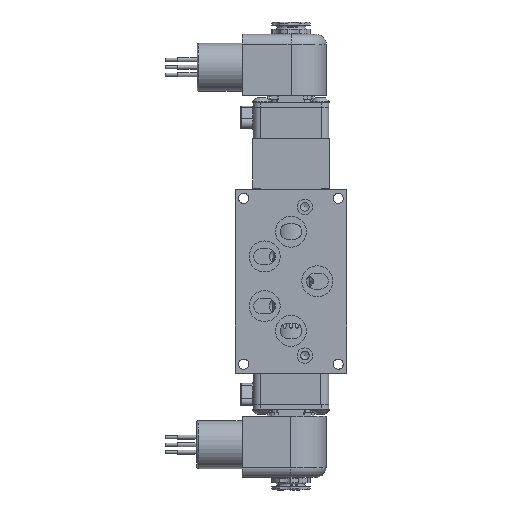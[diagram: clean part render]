
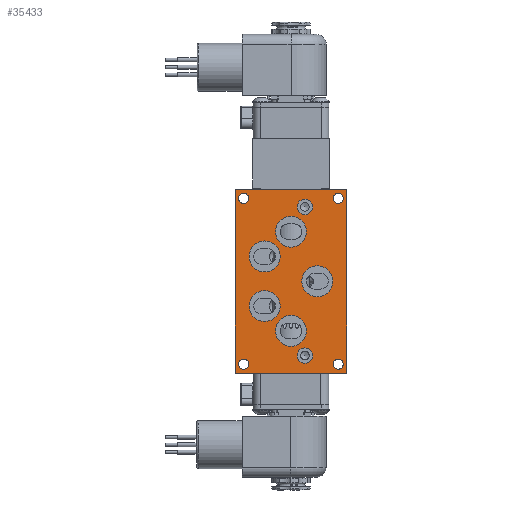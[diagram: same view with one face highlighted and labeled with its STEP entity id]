
A CAD part, front view. The second image highlights one B-rep face of the part: STEP entity #35433.
In plain terms, the highlighted planar face has unit normal (0, -1, 0).
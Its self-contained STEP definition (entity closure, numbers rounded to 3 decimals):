
#1205=FACE_BOUND('',#5490,.T.);
#1206=FACE_BOUND('',#5491,.T.);
#1207=FACE_BOUND('',#5492,.T.);
#1208=FACE_BOUND('',#5493,.T.);
#1209=FACE_BOUND('',#5494,.T.);
#1210=FACE_BOUND('',#5495,.T.);
#1211=FACE_BOUND('',#5496,.T.);
#1212=FACE_BOUND('',#5497,.T.);
#1213=FACE_BOUND('',#5498,.T.);
#1214=FACE_BOUND('',#5499,.T.);
#1215=FACE_BOUND('',#5500,.T.);
#1855=PLANE('',#38562);
#3317=FACE_OUTER_BOUND('',#5489,.T.);
#5489=EDGE_LOOP('',(#27011,#27012,#27013,#27014));
#5490=EDGE_LOOP('',(#27015));
#5491=EDGE_LOOP('',(#27016));
#5492=EDGE_LOOP('',(#27017));
#5493=EDGE_LOOP('',(#27018));
#5494=EDGE_LOOP('',(#27019));
#5495=EDGE_LOOP('',(#27020));
#5496=EDGE_LOOP('',(#27021));
#5497=EDGE_LOOP('',(#27022));
#5498=EDGE_LOOP('',(#27023));
#5499=EDGE_LOOP('',(#27024));
#5500=EDGE_LOOP('',(#27025));
#7732=CIRCLE('',#38563,0.396);
#7733=CIRCLE('',#38564,0.396);
#7734=CIRCLE('',#38565,0.794);
#7735=CIRCLE('',#38566,0.794);
#7736=CIRCLE('',#38567,0.794);
#7737=CIRCLE('',#38568,0.794);
#7738=CIRCLE('',#38569,0.794);
#7739=CIRCLE('',#38570,0.258);
#7740=CIRCLE('',#38571,0.258);
#7741=CIRCLE('',#38572,0.258);
#7742=CIRCLE('',#38573,0.258);
#10181=LINE('',#59419,#12594);
#10182=LINE('',#59421,#12595);
#10183=LINE('',#59423,#12596);
#10184=LINE('',#59424,#12597);
#12594=VECTOR('',#46169,1.);
#12595=VECTOR('',#46170,1.);
#12596=VECTOR('',#46171,1.);
#12597=VECTOR('',#46172,1.);
#15325=VERTEX_POINT('',#59417);
#15326=VERTEX_POINT('',#59418);
#15327=VERTEX_POINT('',#59420);
#15328=VERTEX_POINT('',#59422);
#15329=VERTEX_POINT('',#59425);
#15330=VERTEX_POINT('',#59427);
#15331=VERTEX_POINT('',#59429);
#15332=VERTEX_POINT('',#59431);
#15333=VERTEX_POINT('',#59433);
#15334=VERTEX_POINT('',#59435);
#15335=VERTEX_POINT('',#59437);
#15336=VERTEX_POINT('',#59439);
#15337=VERTEX_POINT('',#59441);
#15338=VERTEX_POINT('',#59443);
#15339=VERTEX_POINT('',#59445);
#19483=EDGE_CURVE('',#15325,#15326,#10181,.T.);
#19484=EDGE_CURVE('',#15326,#15327,#10182,.T.);
#19485=EDGE_CURVE('',#15327,#15328,#10183,.T.);
#19486=EDGE_CURVE('',#15328,#15325,#10184,.T.);
#19487=EDGE_CURVE('',#15329,#15329,#7732,.T.);
#19488=EDGE_CURVE('',#15330,#15330,#7733,.T.);
#19489=EDGE_CURVE('',#15331,#15331,#7734,.T.);
#19490=EDGE_CURVE('',#15332,#15332,#7735,.T.);
#19491=EDGE_CURVE('',#15333,#15333,#7736,.T.);
#19492=EDGE_CURVE('',#15334,#15334,#7737,.T.);
#19493=EDGE_CURVE('',#15335,#15335,#7738,.T.);
#19494=EDGE_CURVE('',#15336,#15336,#7739,.T.);
#19495=EDGE_CURVE('',#15337,#15337,#7740,.T.);
#19496=EDGE_CURVE('',#15338,#15338,#7741,.T.);
#19497=EDGE_CURVE('',#15339,#15339,#7742,.T.);
#27011=ORIENTED_EDGE('',*,*,#19483,.T.);
#27012=ORIENTED_EDGE('',*,*,#19484,.T.);
#27013=ORIENTED_EDGE('',*,*,#19485,.T.);
#27014=ORIENTED_EDGE('',*,*,#19486,.T.);
#27015=ORIENTED_EDGE('',*,*,#19487,.T.);
#27016=ORIENTED_EDGE('',*,*,#19488,.T.);
#27017=ORIENTED_EDGE('',*,*,#19489,.T.);
#27018=ORIENTED_EDGE('',*,*,#19490,.T.);
#27019=ORIENTED_EDGE('',*,*,#19491,.T.);
#27020=ORIENTED_EDGE('',*,*,#19492,.T.);
#27021=ORIENTED_EDGE('',*,*,#19493,.T.);
#27022=ORIENTED_EDGE('',*,*,#19494,.T.);
#27023=ORIENTED_EDGE('',*,*,#19495,.T.);
#27024=ORIENTED_EDGE('',*,*,#19496,.T.);
#27025=ORIENTED_EDGE('',*,*,#19497,.T.);
#35433=ADVANCED_FACE('',(#3317,#1205,#1206,#1207,#1208,#1209,#1210,#1211,
#1212,#1213,#1214,#1215),#1855,.T.);
#38562=AXIS2_PLACEMENT_3D('',#59416,#46167,#46168);
#38563=AXIS2_PLACEMENT_3D('',#59426,#46173,#46174);
#38564=AXIS2_PLACEMENT_3D('',#59428,#46175,#46176);
#38565=AXIS2_PLACEMENT_3D('',#59430,#46177,#46178);
#38566=AXIS2_PLACEMENT_3D('',#59432,#46179,#46180);
#38567=AXIS2_PLACEMENT_3D('',#59434,#46181,#46182);
#38568=AXIS2_PLACEMENT_3D('',#59436,#46183,#46184);
#38569=AXIS2_PLACEMENT_3D('',#59438,#46185,#46186);
#38570=AXIS2_PLACEMENT_3D('',#59440,#46187,#46188);
#38571=AXIS2_PLACEMENT_3D('',#59442,#46189,#46190);
#38572=AXIS2_PLACEMENT_3D('',#59444,#46191,#46192);
#38573=AXIS2_PLACEMENT_3D('',#59446,#46193,#46194);
#46167=DIRECTION('center_axis',(0.,-1.,0.));
#46168=DIRECTION('ref_axis',(0.,0.,-1.));
#46169=DIRECTION('',(-1.,0.,0.));
#46170=DIRECTION('',(0.,0.,-1.));
#46171=DIRECTION('',(1.,0.,0.));
#46172=DIRECTION('',(0.,0.,1.));
#46173=DIRECTION('center_axis',(0.,1.,0.));
#46174=DIRECTION('ref_axis',(1.,0.,0.));
#46175=DIRECTION('center_axis',(0.,1.,0.));
#46176=DIRECTION('ref_axis',(1.,0.,0.));
#46177=DIRECTION('center_axis',(0.,1.,0.));
#46178=DIRECTION('ref_axis',(1.,0.,0.));
#46179=DIRECTION('center_axis',(0.,1.,0.));
#46180=DIRECTION('ref_axis',(1.,0.,0.));
#46181=DIRECTION('center_axis',(0.,1.,0.));
#46182=DIRECTION('ref_axis',(1.,0.,0.));
#46183=DIRECTION('center_axis',(0.,1.,0.));
#46184=DIRECTION('ref_axis',(1.,0.,0.));
#46185=DIRECTION('center_axis',(0.,1.,0.));
#46186=DIRECTION('ref_axis',(1.,0.,0.));
#46187=DIRECTION('center_axis',(0.,1.,0.));
#46188=DIRECTION('ref_axis',(1.,0.,0.));
#46189=DIRECTION('center_axis',(0.,1.,0.));
#46190=DIRECTION('ref_axis',(1.,0.,0.));
#46191=DIRECTION('center_axis',(0.,1.,0.));
#46192=DIRECTION('ref_axis',(1.,0.,0.));
#46193=DIRECTION('center_axis',(0.,1.,0.));
#46194=DIRECTION('ref_axis',(1.,0.,0.));
#59416=CARTESIAN_POINT('Origin',(2.858,-1.636,0.));
#59417=CARTESIAN_POINT('',(2.858,-1.636,4.71));
#59418=CARTESIAN_POINT('',(-2.858,-1.636,4.71));
#59419=CARTESIAN_POINT('',(-2.858,-1.636,4.71));
#59420=CARTESIAN_POINT('',(-2.858,-1.636,-4.71));
#59421=CARTESIAN_POINT('',(-2.858,-1.636,0.));
#59422=CARTESIAN_POINT('',(2.858,-1.636,-4.71));
#59423=CARTESIAN_POINT('',(-2.858,-1.636,-4.71));
#59424=CARTESIAN_POINT('',(2.858,-1.636,0.));
#59425=CARTESIAN_POINT('',(0.318,-1.636,-3.81));
#59426=CARTESIAN_POINT('Origin',(0.714,-1.636,-3.81));
#59427=CARTESIAN_POINT('',(0.318,-1.636,3.81));
#59428=CARTESIAN_POINT('Origin',(0.714,-1.636,3.81));
#59429=CARTESIAN_POINT('',(0.555,-1.636,0.));
#59430=CARTESIAN_POINT('Origin',(1.349,-1.636,0.));
#59431=CARTESIAN_POINT('',(-0.794,-1.636,-2.54));
#59432=CARTESIAN_POINT('Origin',(0.,-1.636,-2.54));
#59433=CARTESIAN_POINT('',(-0.794,-1.636,2.54));
#59434=CARTESIAN_POINT('Origin',(0.,-1.636,2.54));
#59435=CARTESIAN_POINT('',(-2.142,-1.636,-1.27));
#59436=CARTESIAN_POINT('Origin',(-1.349,-1.636,-1.27));
#59437=CARTESIAN_POINT('',(-2.142,-1.636,1.27));
#59438=CARTESIAN_POINT('Origin',(-1.349,-1.636,1.27));
#59439=CARTESIAN_POINT('',(-2.679,-1.636,4.247));
#59440=CARTESIAN_POINT('Origin',(-2.421,-1.636,4.247));
#59441=CARTESIAN_POINT('',(2.163,-1.636,4.247));
#59442=CARTESIAN_POINT('Origin',(2.421,-1.636,4.247));
#59443=CARTESIAN_POINT('',(2.163,-1.636,-4.247));
#59444=CARTESIAN_POINT('Origin',(2.421,-1.636,-4.247));
#59445=CARTESIAN_POINT('',(-2.679,-1.636,-4.247));
#59446=CARTESIAN_POINT('Origin',(-2.421,-1.636,-4.247));
